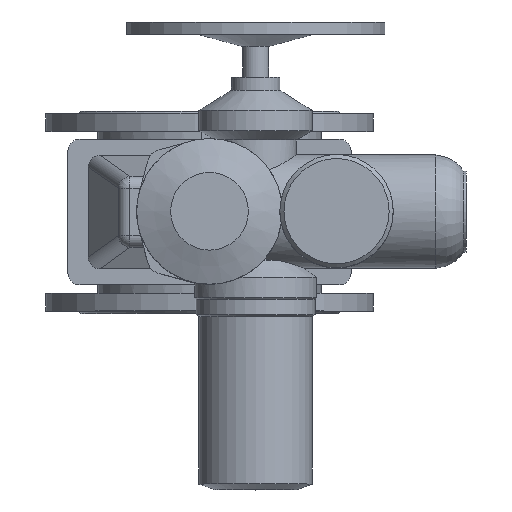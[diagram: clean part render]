
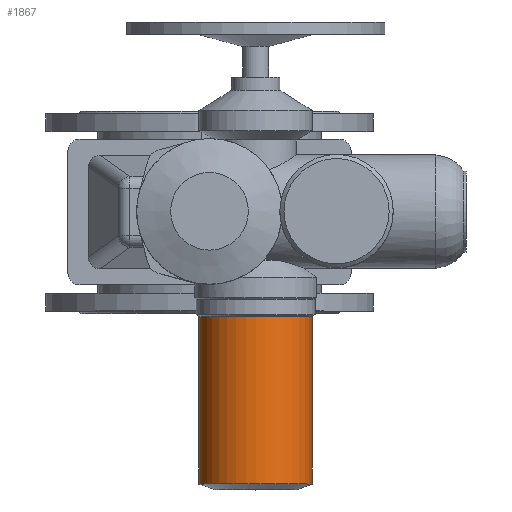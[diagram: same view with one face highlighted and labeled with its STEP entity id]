
A CAD part, top view. The second image highlights one B-rep face of the part: STEP entity #1867.
In plain terms, the highlighted cylindrical face has radius 70 mm (diameter 140 mm), a full revolution.
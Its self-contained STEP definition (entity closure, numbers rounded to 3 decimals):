
#1867=ADVANCED_FACE('',(#4263,#4265),#4267,.T.);
#4263=FACE_OUTER_BOUND('',#4264,.T.);
#4264=EDGE_LOOP('',(#5181));
#4265=FACE_OUTER_BOUND('',#4266,.T.);
#4266=EDGE_LOOP('',(#5182));
#4267=CYLINDRICAL_SURFACE('',#4268,70.);
#4268=AXIS2_PLACEMENT_3D('',#4269,#4270,#4271);
#4269=CARTESIAN_POINT('',(57.,-336.721,646.));
#4270=DIRECTION('',(0.,1.,0.));
#4271=DIRECTION('',(0.,0.,1.));
#5181=ORIENTED_EDGE('',*,*,#5632,.F.);
#5182=ORIENTED_EDGE('',*,*,#5633,.T.);
#5632=EDGE_CURVE('',#6406,#6406,#6407,.T.);
#5633=EDGE_CURVE('',#6408,#6408,#6409,.T.);
#6406=VERTEX_POINT('',#9416);
#6407=CIRCLE('',#9417,70.);
#6408=VERTEX_POINT('',#9421);
#6409=CIRCLE('',#9422,70.);
#9416=CARTESIAN_POINT('',(57.,-129.807,716.));
#9417=AXIS2_PLACEMENT_3D('',#9418,#9419,#9420);
#9418=CARTESIAN_POINT('',(57.,-129.807,646.));
#9419=DIRECTION('',(0.,1.,0.));
#9420=DIRECTION('',(0.,0.,1.));
#9421=CARTESIAN_POINT('',(57.,-336.721,716.));
#9422=AXIS2_PLACEMENT_3D('',#9423,#9424,#9425);
#9423=CARTESIAN_POINT('',(57.,-336.721,646.));
#9424=DIRECTION('',(0.,1.,0.));
#9425=DIRECTION('',(0.,0.,1.));
